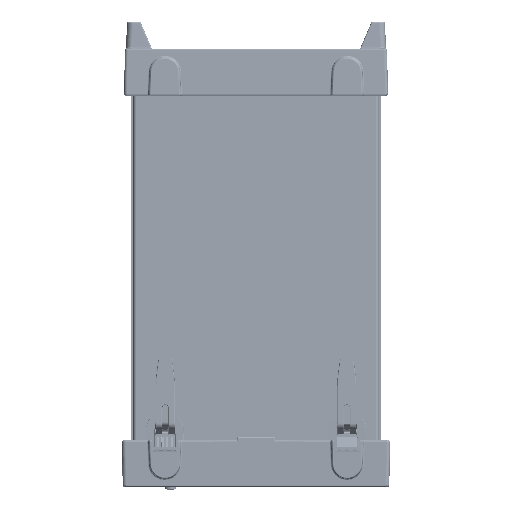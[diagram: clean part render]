
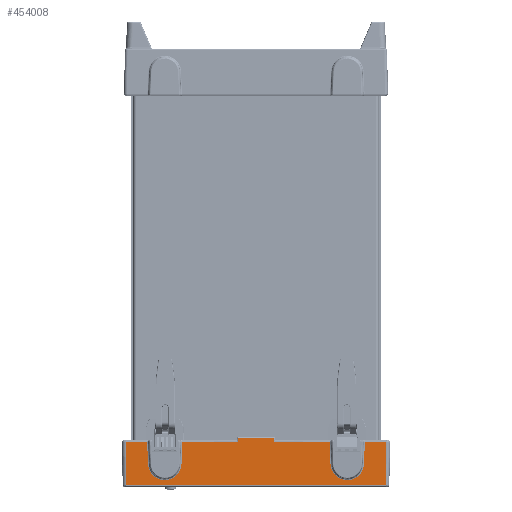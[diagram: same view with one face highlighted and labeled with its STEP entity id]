
A CAD part, front view. The second image highlights one B-rep face of the part: STEP entity #454008.
In plain terms, the highlighted planar face has unit normal (0, -1, -0.018) as drawn and (0, -1, 0.017) by its records, which use the part's own axes.
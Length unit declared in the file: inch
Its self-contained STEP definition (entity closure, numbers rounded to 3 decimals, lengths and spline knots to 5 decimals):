
#447940=DIRECTION('',(1.,0.,0.));
#447941=VECTOR('',#447940,8.51993);
#447942=CARTESIAN_POINT('',(-4.25996,-1.94745,
0.71587));
#447943=LINE('',#447942,#447941);
#447947=DIRECTION('',(0.017,-0.017,-1.));
#447948=VECTOR('',#447947,1.43044);
#447949=CARTESIAN_POINT('',(4.25996,-1.94745,
0.71587));
#447950=LINE('',#447949,#447948);
#447954=DIRECTION('',(-1.,0.,0.));
#447955=VECTOR('',#447954,0.70326);
#447956=CARTESIAN_POINT('',(4.28492,-1.97241,
-0.71413));
#447957=LINE('',#447956,#447955);
#447961=CARTESIAN_POINT('',(3.54948,-1.95954,
0.02312));
#447962=CARTESIAN_POINT('',(3.54775,-1.95885,
0.06259));
#447963=CARTESIAN_POINT('',(3.53606,-1.95752,
0.13887));
#447964=CARTESIAN_POINT('',(3.4956,-1.95563,
0.24672));
#447965=CARTESIAN_POINT('',(3.43354,-1.95394,
0.34403));
#447966=CARTESIAN_POINT('',(3.35277,-1.9525,
0.4263));
#447967=CARTESIAN_POINT('',(3.25665,-1.95139,
0.4901));
#447968=CARTESIAN_POINT('',(3.14944,-1.95064,
0.53259));
#447969=CARTESIAN_POINT('',(3.03574,-1.95031,
0.55198));
#447970=CARTESIAN_POINT('',(2.9205,-1.95039,
0.5474));
#447971=CARTESIAN_POINT('',(2.80869,-1.95088,
0.51905));
#447972=CARTESIAN_POINT('',(2.70518,-1.95177,
0.46816));
#447973=CARTESIAN_POINT('',(2.61448,-1.95301,
0.39702));
#447974=CARTESIAN_POINT('',(2.54026,-1.95456,
0.30822));
#447975=CARTESIAN_POINT('',(2.48726,-1.95631,
0.20811));
#447976=CARTESIAN_POINT('',(2.4579,-1.95807,
0.10728));
#447977=CARTESIAN_POINT('',(2.4517,-1.95907,
0.05006));
#447978=CARTESIAN_POINT('',(2.45052,-1.95954,
0.02312));
#447983=DIRECTION('',(-0.087,-0.017,
-0.996));
#447984=VECTOR('',#447983,0.12593);
#447985=CARTESIAN_POINT('',(0.60432,-1.97241,
-0.71413));
#447986=LINE('',#447985,#447984);
#447990=DIRECTION('',(-1.,0.,0.));
#447991=VECTOR('',#447990,1.18669);
#447992=CARTESIAN_POINT('',(0.59334,-1.9746,
-0.83956));
#447993=LINE('',#447992,#447991);
#447997=DIRECTION('',(-0.087,0.017,0.996));
#447998=VECTOR('',#447997,0.12593);
#447999=CARTESIAN_POINT('',(-0.59334,-1.9746,
-0.83956));
#448000=LINE('',#447999,#447998);
#448004=CARTESIAN_POINT('',(-2.45052,-1.95954,
0.02312));
#448005=CARTESIAN_POINT('',(-2.45225,-1.95885,
0.06259));
#448006=CARTESIAN_POINT('',(-2.46394,-1.95752,
0.13887));
#448007=CARTESIAN_POINT('',(-2.5044,-1.95563,
0.24672));
#448008=CARTESIAN_POINT('',(-2.56646,-1.95394,
0.34403));
#448009=CARTESIAN_POINT('',(-2.64723,-1.9525,
0.4263));
#448010=CARTESIAN_POINT('',(-2.74335,-1.95139,
0.4901));
#448011=CARTESIAN_POINT('',(-2.85056,-1.95064,
0.53259));
#448012=CARTESIAN_POINT('',(-2.96426,-1.95031,
0.55198));
#448013=CARTESIAN_POINT('',(-3.0795,-1.95039,
0.5474));
#448014=CARTESIAN_POINT('',(-3.19131,-1.95088,
0.51905));
#448015=CARTESIAN_POINT('',(-3.29482,-1.95177,
0.46816));
#448016=CARTESIAN_POINT('',(-3.38552,-1.95301,
0.39702));
#448017=CARTESIAN_POINT('',(-3.45974,-1.95456,
0.30822));
#448018=CARTESIAN_POINT('',(-3.51274,-1.95631,
0.20811));
#448019=CARTESIAN_POINT('',(-3.5421,-1.95807,
0.10728));
#448020=CARTESIAN_POINT('',(-3.5483,-1.95907,
0.05006));
#448021=CARTESIAN_POINT('',(-3.54948,-1.95954,
0.02312));
#448026=DIRECTION('',(-1.,0.,0.));
#448027=VECTOR('',#448026,0.70326);
#448028=CARTESIAN_POINT('',(-3.58167,-1.97241,
-0.71413));
#448029=LINE('',#448028,#448027);
#448033=DIRECTION('',(-0.017,-0.017,
-1.));
#448034=VECTOR('',#448033,1.43044);
#448035=CARTESIAN_POINT('',(-4.25996,-1.94745,
0.71587));
#448036=LINE('',#448035,#448034);
#448484=CARTESIAN_POINT('',(-4.25996,-1.94745,
0.71587));
#448489=CARTESIAN_POINT('',(-4.28492,-1.97241,
-0.71413));
#449843=DIRECTION('',(1.,0.,0.));
#449844=VECTOR('',#449843,1.81402);
#449845=CARTESIAN_POINT('',(0.60432,-1.97241,
-0.71413));
#449846=LINE('',#449845,#449844);
#449999=DIRECTION('',(0.044,0.017,0.999));
#450000=VECTOR('',#449999,0.73806);
#450001=CARTESIAN_POINT('',(2.41833,-1.97241,
-0.71413));
#450002=LINE('',#450001,#450000);
#450022=DIRECTION('',(0.044,-0.017,-0.999));
#450023=VECTOR('',#450022,0.73806);
#450024=CARTESIAN_POINT('',(3.54948,-1.95954,
0.02312));
#450025=LINE('',#450024,#450023);
#450404=DIRECTION('',(0.044,0.017,0.999));
#450405=VECTOR('',#450404,0.73806);
#450406=CARTESIAN_POINT('',(-3.58167,-1.97241,
-0.71413));
#450407=LINE('',#450406,#450405);
#450427=DIRECTION('',(0.044,-0.017,-0.999));
#450428=VECTOR('',#450427,0.73806);
#450429=CARTESIAN_POINT('',(-2.45052,-1.95954,
0.02312));
#450430=LINE('',#450429,#450428);
#450457=DIRECTION('',(1.,0.,0.));
#450458=VECTOR('',#450457,1.81402);
#450459=CARTESIAN_POINT('',(-2.41833,-1.97241,
-0.71413));
#450460=LINE('',#450459,#450458);
#450790=CARTESIAN_POINT('',(4.28492,-1.97241,
-0.71413));
#451769=VERTEX_POINT('',#448489);
#451796=VERTEX_POINT('',#450790);
#451813=VERTEX_POINT('',#448004);
#451814=VERTEX_POINT('',#448021);
#451822=VERTEX_POINT('',#447961);
#451823=VERTEX_POINT('',#447978);
#451833=CARTESIAN_POINT('',(3.58167,-1.97241,
-0.71413));
#451834=VERTEX_POINT('',#451833);
#451835=CARTESIAN_POINT('',(-3.58167,-1.97241,
-0.71413));
#451836=VERTEX_POINT('',#451835);
#451923=CARTESIAN_POINT('',(-0.59334,-1.9746,
-0.83956));
#451924=CARTESIAN_POINT('',(-0.60432,-1.97241,
-0.71413));
#451925=VERTEX_POINT('',#451923);
#451926=VERTEX_POINT('',#451924);
#451935=CARTESIAN_POINT('',(0.59334,-1.9746,
-0.83956));
#451936=VERTEX_POINT('',#451935);
#451941=CARTESIAN_POINT('',(0.60432,-1.97241,
-0.71413));
#451942=VERTEX_POINT('',#451941);
#451943=CARTESIAN_POINT('',(-2.41833,-1.97241,
-0.71413));
#451944=VERTEX_POINT('',#451943);
#451945=CARTESIAN_POINT('',(2.41833,-1.97241,
-0.71413));
#451946=VERTEX_POINT('',#451945);
#451974=VERTEX_POINT('',#448484);
#451977=CARTESIAN_POINT('',(4.25996,-1.94745,
0.71587));
#451978=VERTEX_POINT('',#451977);
#453971=CARTESIAN_POINT('',(-6.69435,-1.97329,-0.765));
#453972=DIRECTION('',(0.,-1.,0.017));
#453973=DIRECTION('',(1.,0.,0.));
#453974=AXIS2_PLACEMENT_3D('',#453971,#453972,#453973);
#453975=PLANE('',#453974);
#453977=ORIENTED_EDGE('',*,*,#453976,.T.);
#453979=ORIENTED_EDGE('',*,*,#453978,.T.);
#453981=ORIENTED_EDGE('',*,*,#453980,.T.);
#453983=ORIENTED_EDGE('',*,*,#453982,.F.);
#453985=ORIENTED_EDGE('',*,*,#453984,.T.);
#453987=ORIENTED_EDGE('',*,*,#453986,.F.);
#453989=ORIENTED_EDGE('',*,*,#453988,.F.);
#453991=ORIENTED_EDGE('',*,*,#453990,.T.);
#453992=ORIENTED_EDGE('',*,*,#453812,.T.);
#453993=ORIENTED_EDGE('',*,*,#453955,.T.);
#453995=ORIENTED_EDGE('',*,*,#453994,.F.);
#453997=ORIENTED_EDGE('',*,*,#453996,.F.);
#453999=ORIENTED_EDGE('',*,*,#453998,.T.);
#454001=ORIENTED_EDGE('',*,*,#454000,.F.);
#454003=ORIENTED_EDGE('',*,*,#454002,.T.);
#454005=ORIENTED_EDGE('',*,*,#454004,.F.);
#454006=EDGE_LOOP('',(#453977,#453979,#453981,#453983,#453985,#453987,#453989,
#453991,#453992,#453993,#453995,#453997,#453999,#454001,#454003,#454005));
#454007=FACE_OUTER_BOUND('',#454006,.F.);
#447979=B_SPLINE_CURVE_WITH_KNOTS('',3,(#447961,#447962,#447963,#447964,#447965,
#447966,#447967,#447968,#447969,#447970,#447971,#447972,#447973,#447974,#447975,
#447976,#447977,#447978),.UNSPECIFIED.,.F.,.F.,(4,1,1,1,1,1,1,1,1,1,1,1,1,1,1,
4),(0.,0.06667,0.13333,0.2,0.26667,
0.33333,0.4,0.46667,0.53333,0.6,
0.66667,0.73333,0.8,0.86667,0.93333,
1.),.UNSPECIFIED.);
#448022=B_SPLINE_CURVE_WITH_KNOTS('',3,(#448004,#448005,#448006,#448007,#448008,
#448009,#448010,#448011,#448012,#448013,#448014,#448015,#448016,#448017,#448018,
#448019,#448020,#448021),.UNSPECIFIED.,.F.,.F.,(4,1,1,1,1,1,1,1,1,1,1,1,1,1,1,
4),(0.,0.06667,0.13333,0.2,0.26667,
0.33333,0.4,0.46667,0.53333,0.6,
0.66667,0.73333,0.8,0.86667,0.93333,
1.),.UNSPECIFIED.);
#453812=EDGE_CURVE('',#451936,#451925,#447993,.T.);
#453955=EDGE_CURVE('',#451925,#451926,#448000,.T.);
#453976=EDGE_CURVE('',#451974,#451978,#447943,.T.);
#453978=EDGE_CURVE('',#451978,#451796,#447950,.T.);
#453980=EDGE_CURVE('',#451796,#451834,#447957,.T.);
#453982=EDGE_CURVE('',#451822,#451834,#450025,.T.);
#453984=EDGE_CURVE('',#451822,#451823,#447979,.T.);
#453986=EDGE_CURVE('',#451946,#451823,#450002,.T.);
#453988=EDGE_CURVE('',#451942,#451946,#449846,.T.);
#453990=EDGE_CURVE('',#451942,#451936,#447986,.T.);
#453994=EDGE_CURVE('',#451944,#451926,#450460,.T.);
#453996=EDGE_CURVE('',#451813,#451944,#450430,.T.);
#453998=EDGE_CURVE('',#451813,#451814,#448022,.T.);
#454000=EDGE_CURVE('',#451836,#451814,#450407,.T.);
#454002=EDGE_CURVE('',#451836,#451769,#448029,.T.);
#454004=EDGE_CURVE('',#451974,#451769,#448036,.T.);
#454008=ADVANCED_FACE('',(#454007),#453975,.T.);
